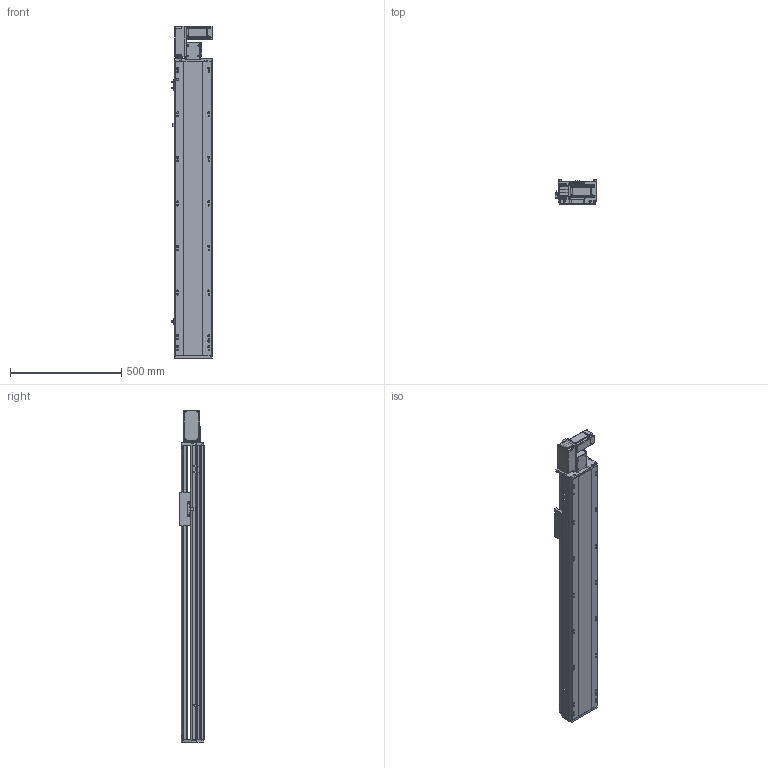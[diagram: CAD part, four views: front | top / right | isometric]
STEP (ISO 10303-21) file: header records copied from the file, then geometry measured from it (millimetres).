
FILE_DESCRIPTION (( 'STEP AP214' ), '1' );
FILE_NAME ('RTB17S-XX-1050-L-M40-C4.STEP', '2025-12-11T05:36:20', ( '' ), ( '' ), 'SwSTEP 2.0', 'SolidWorks 2018', '' );
FILE_SCHEMA (( 'AUTOMOTIVE_DESIGN' ));
Length unit declared in the file: millimetre
Products named in the file (14): RTB17S-L-001侧面板^RTB17S-XX-XX-L-M40-C4（方程式）; RTB14-L-008-M20--电机板^RTB17S-L-皮带座装配-400W_RTB17S-XX-XX-L-M40-C4（方程式）; OMRON EE-SX672 传感器^RTB17S-XX-XX-L-M40-C4（方程式）; RTB14-L-005P--轴承塑胶压盖^RTB17S-L-皮带座装配-400W_RTB17S-XX-XX-L-M40-C4（方程式）; RMP17S-L-014-T20--皮带座^RTB17S-L-皮带座装配-400W_RTB17S-XX-XX-L-M40-C4（方程式）; RTB14-L-017P^RTB17S-L-皮带座装配-400W_RTB17S-XX-XX-L-M40-C4（方程式）; RTH13-BL-012感应片外置^RTB17S-XX-XX-L-M40-C4（方程式）; 400W伺服电机^RTB17S-XX-XX-L-M40-C4（方程式）; RTB17S-L-皮带座装配-400W^RTB17S-XX-XX-L-M40-C4（方程式）; RTB17S-L-004丝杆螺母连接座^RTB17S-XX-XX-L-M40-C4（方程式）; RTB17S-XX-1050-L-M40-C4; RTB17S-L-007上盖^RTB17S-XX-XX-L-M40-C4（方程式）; RTB17-R-011底座^RTB17S-XX-XX-L-M40-C4（方程式）; RTB14-L-018P^RTB17S-L-皮带座装配-400W_RTB17S-XX-XX-L-M40-C4（方程式）
Assembly tree (16 placements, depth 3):
  RTB17S-XX-1050-L-M40-C4
    RTB17-R-011底座^RTB17S-XX-XX-L-M40-C4（方程式）
    RTB17S-L-007上盖^RTB17S-XX-XX-L-M40-C4（方程式）
    OMRON EE-SX672 传感器^RTB17S-XX-XX-L-M40-C4（方程式）  x3
    RTB17S-L-001侧面板^RTB17S-XX-XX-L-M40-C4（方程式）
    400W伺服电机^RTB17S-XX-XX-L-M40-C4（方程式）
    RTB17S-L-004丝杆螺母连接座^RTB17S-XX-XX-L-M40-C4（方程式）
    RTH13-BL-012感应片外置^RTB17S-XX-XX-L-M40-C4（方程式）
    RTB17S-L-皮带座装配-400W^RTB17S-XX-XX-L-M40-C4（方程式）
      RMP17S-L-014-T20--皮带座^RTB17S-L-皮带座装配-400W_RTB17S-XX-XX-L-M40-C4（方程式）
      RTB14-L-005P--轴承塑胶压盖^RTB17S-L-皮带座装配-400W_RTB17S-XX-XX-L-M40-C4（方程式）
      RTB14-L-008-M20--电机板^RTB17S-L-皮带座装配-400W_RTB17S-XX-XX-L-M40-C4（方程式）
      RTB14-L-017P^RTB17S-L-皮带座装配-400W_RTB17S-XX-XX-L-M40-C4（方程式）  x2
      RTB14-L-018P^RTB17S-L-皮带座装配-400W_RTB17S-XX-XX-L-M40-C4（方程式）
Bounding box: 186 x 108 x 1491 mm (x, y, z)
Volume: 12776869.5 mm3; surface area: 1544328 mm2
Topology: 15 solids, 15 shells, 2221 faces, 6141 edges, 4005 vertices
Faces by surface type: plane 1070, cylinder 703, bspline 301, cone 139, torus 8
Entity records: 63401 total; most frequent: CARTESIAN_POINT 17746, ORIENTED_EDGE 9126, DIRECTION 8486, EDGE_CURVE 4563, VERTEX_POINT 2993, AXIS2_PLACEMENT_3D 2923, VECTOR 2640, LINE 2640
